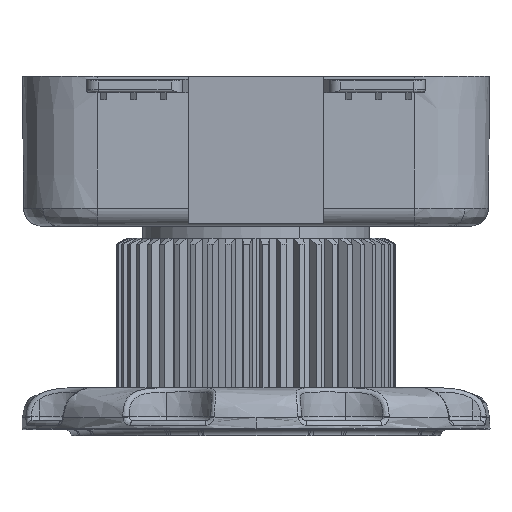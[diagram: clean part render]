
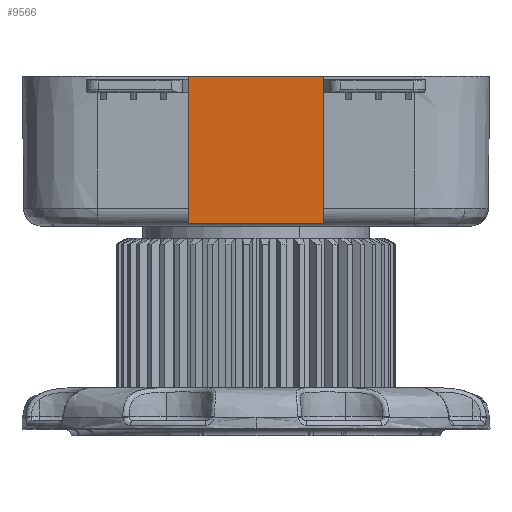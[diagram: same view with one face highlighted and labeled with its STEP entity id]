
A CAD part, left-side view. The second image highlights one B-rep face of the part: STEP entity #9566.
In plain terms, the highlighted planar face has unit normal (-0.999, 0, -0.043).
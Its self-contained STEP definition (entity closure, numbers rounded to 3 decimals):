
#461 = VECTOR ( 'NONE', #19292, 1000. ) ;
#3406 = VECTOR ( 'NONE', #34610, 1000. ) ;
#3687 = FACE_OUTER_BOUND ( 'NONE', #8421, .T. ) ;
#6143 = DIRECTION ( 'NONE',  ( -0.999, 0., -0.043 ) ) ;
#6346 = CARTESIAN_POINT ( 'NONE',  ( -27.176, -5.844, 130.186 ) ) ;
#6837 = ORIENTED_EDGE ( 'NONE', *, *, #8011, .F. ) ;
#8011 = EDGE_CURVE ( 'NONE', #22912, #32775, #10023, .T. ) ;
#8201 = CARTESIAN_POINT ( 'NONE',  ( -27.176, 16.756, 130.186 ) ) ;
#8421 = EDGE_LOOP ( 'NONE', ( #32547, #6837, #18263, #9270 ) ) ;
#9270 = ORIENTED_EDGE ( 'NONE', *, *, #39042, .T. ) ;
#9566 = ADVANCED_FACE ( 'NONE', ( #3687 ), #37974, .T. ) ;
#10023 = LINE ( 'NONE', #22579, #38842 ) ;
#13441 = CARTESIAN_POINT ( 'NONE',  ( -26.134, 16.756, 105.68 ) ) ;
#15787 = CARTESIAN_POINT ( 'NONE',  ( -27.176, -5.844, 130.186 ) ) ;
#16781 = DIRECTION ( 'NONE',  ( -0.043, 0., 0.999 ) ) ;
#18263 = ORIENTED_EDGE ( 'NONE', *, *, #32022, .F. ) ;
#19292 = DIRECTION ( 'NONE',  ( 0., 1., 0. ) ) ;
#22101 = LINE ( 'NONE', #33997, #3406 ) ;
#22186 = LINE ( 'NONE', #34905, #461 ) ;
#22579 = CARTESIAN_POINT ( 'NONE',  ( -26.134, 16.756, 105.68 ) ) ;
#22912 = VERTEX_POINT ( 'NONE', #13441 ) ;
#23073 = VERTEX_POINT ( 'NONE', #15787 ) ;
#23852 = EDGE_CURVE ( 'NONE', #32775, #23073, #24336, .T. ) ;
#24336 = LINE ( 'NONE', #36635, #35780 ) ;
#26413 = CARTESIAN_POINT ( 'NONE',  ( -26.134, -5.844, 105.68 ) ) ;
#31305 = VERTEX_POINT ( 'NONE', #26413 ) ;
#32022 = EDGE_CURVE ( 'NONE', #31305, #22912, #22186, .T. ) ;
#32547 = ORIENTED_EDGE ( 'NONE', *, *, #23852, .F. ) ;
#32775 = VERTEX_POINT ( 'NONE', #8201 ) ;
#33997 = CARTESIAN_POINT ( 'NONE',  ( -26.655, -5.844, 117.933 ) ) ;
#34610 = DIRECTION ( 'NONE',  ( -0.043, 0., 0.999 ) ) ;
#34756 = AXIS2_PLACEMENT_3D ( 'NONE', #6346, #6143, #40598 ) ;
#34905 = CARTESIAN_POINT ( 'NONE',  ( -26.134, 5.456, 105.68 ) ) ;
#35780 = VECTOR ( 'NONE', #39295, 1000. ) ;
#36635 = CARTESIAN_POINT ( 'NONE',  ( -27.176, -5.844, 130.186 ) ) ;
#37974 = PLANE ( 'NONE',  #34756 ) ;
#38842 = VECTOR ( 'NONE', #16781, 1000. ) ;
#39042 = EDGE_CURVE ( 'NONE', #31305, #23073, #22101, .T. ) ;
#39295 = DIRECTION ( 'NONE',  ( 0., -1., 0. ) ) ;
#40598 = DIRECTION ( 'NONE',  ( 0., 1., 0. ) ) ;
